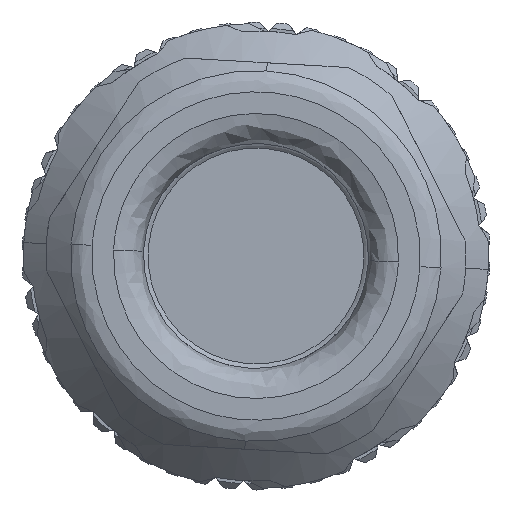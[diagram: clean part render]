
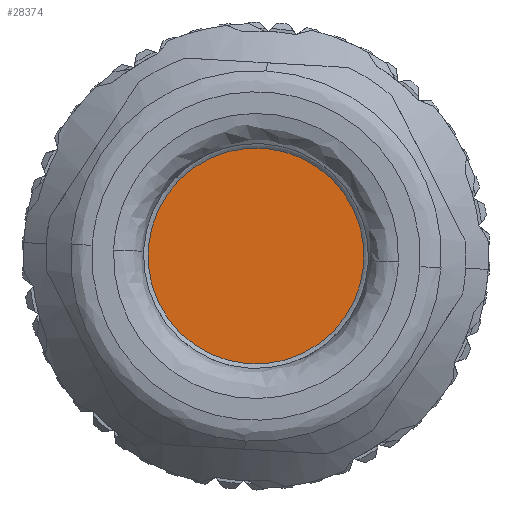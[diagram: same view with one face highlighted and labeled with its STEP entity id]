
A CAD part, left-side view. The second image highlights one B-rep face of the part: STEP entity #28374.
In plain terms, the highlighted planar face has unit normal (-1, 0, 0).
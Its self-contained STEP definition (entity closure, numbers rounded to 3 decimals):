
#189 = DIRECTION ( 'NONE',  ( 1., 0., 0. ) ) ;
#1159 = CIRCLE ( 'NONE', #11983, 3.6 ) ;
#5374 = ORIENTED_EDGE ( 'NONE', *, *, #73621, .F. ) ;
#6094 = PLANE ( 'NONE',  #60037 ) ;
#11983 = AXIS2_PLACEMENT_3D ( 'NONE', #60241, #35764, #24575 ) ;
#17804 = DIRECTION ( 'NONE',  ( 0., 0.708, 0.706 ) ) ;
#19510 = FACE_OUTER_BOUND ( 'NONE', #74565, .T. ) ;
#24575 = DIRECTION ( 'NONE',  ( 0., 0.708, 0.706 ) ) ;
#25693 = CIRCLE ( 'NONE', #50785, 3.6 ) ;
#26778 = CARTESIAN_POINT ( 'NONE',  ( -20.533, 4.807, 8.098 ) ) ;
#28374 = ADVANCED_FACE ( 'NONE', ( #19510 ), #6094, .T. ) ;
#35023 = VERTEX_POINT ( 'NONE', #76355 ) ;
#35764 = DIRECTION ( 'NONE',  ( 1., 0., 0. ) ) ;
#36089 = CARTESIAN_POINT ( 'NONE',  ( -20.533, 7.356, 10.64 ) ) ;
#50785 = AXIS2_PLACEMENT_3D ( 'NONE', #72992, #189, #62274 ) ;
#54954 = DIRECTION ( 'NONE',  ( -1., 0., 0. ) ) ;
#60037 = AXIS2_PLACEMENT_3D ( 'NONE', #36089, #54954, #17804 ) ;
#60241 = CARTESIAN_POINT ( 'NONE',  ( -20.533, 7.356, 10.64 ) ) ;
#60617 = VERTEX_POINT ( 'NONE', #26778 ) ;
#62274 = DIRECTION ( 'NONE',  ( 0., 0.708, 0.706 ) ) ;
#63224 = EDGE_CURVE ( 'NONE', #35023, #60617, #1159, .T. ) ;
#72992 = CARTESIAN_POINT ( 'NONE',  ( -20.533, 7.356, 10.64 ) ) ;
#73621 = EDGE_CURVE ( 'NONE', #60617, #35023, #25693, .T. ) ;
#74565 = EDGE_LOOP ( 'NONE', ( #78915, #5374 ) ) ;
#76355 = CARTESIAN_POINT ( 'NONE',  ( -20.533, 9.905, 13.182 ) ) ;
#78915 = ORIENTED_EDGE ( 'NONE', *, *, #63224, .F. ) ;
